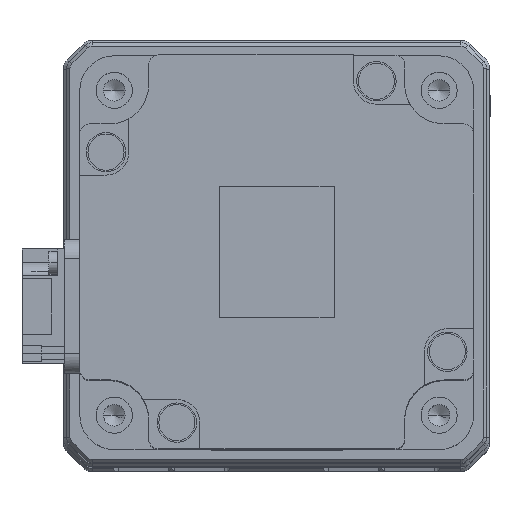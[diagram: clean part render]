
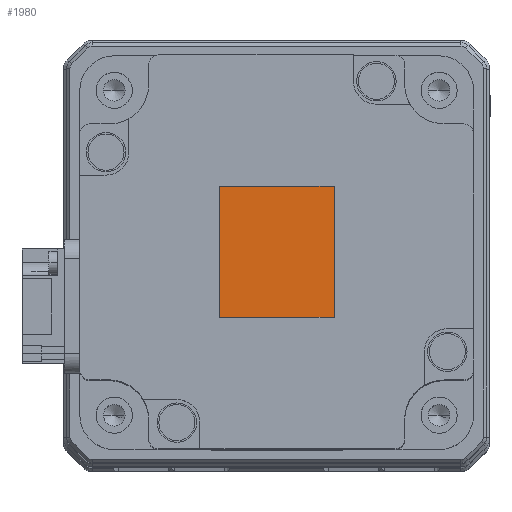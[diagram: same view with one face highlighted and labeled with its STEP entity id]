
A CAD part, top view. The second image highlights one B-rep face of the part: STEP entity #1980.
In plain terms, the highlighted planar face has unit normal (0, 0, 1) as drawn and (0, 0, -1) by its records, which use the part's own axes.
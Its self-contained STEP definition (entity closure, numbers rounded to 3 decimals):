
#828 = ORIENTED_EDGE ( 'NONE', *, *, #19325, .T. ) ;
#1980 = ADVANCED_FACE ( 'NONE', ( #7051 ), #3162, .T. ) ;
#2082 = CARTESIAN_POINT ( 'NONE',  ( 10., 8.75, -80.1 ) ) ;
#2175 = VECTOR ( 'NONE', #3918, 1000. ) ;
#3162 = PLANE ( 'NONE',  #11835 ) ;
#3918 = DIRECTION ( 'NONE',  ( 1., 0., 0. ) ) ;
#4731 = CARTESIAN_POINT ( 'NONE',  ( 10., 8.75, -80.1 ) ) ;
#5404 = VERTEX_POINT ( 'NONE', #2082 ) ;
#6102 = CARTESIAN_POINT ( 'NONE',  ( -10., 8.75, -80.1 ) ) ;
#7051 = FACE_OUTER_BOUND ( 'NONE', #31761, .T. ) ;
#8414 = DIRECTION ( 'NONE',  ( -1., 0., 0. ) ) ;
#9156 = CARTESIAN_POINT ( 'NONE',  ( 10., 8.75, -80.1 ) ) ;
#11317 = EDGE_CURVE ( 'NONE', #28480, #13376, #26264, .T. ) ;
#11622 = CARTESIAN_POINT ( 'NONE',  ( -10., -8.75, -80.1 ) ) ;
#11662 = EDGE_CURVE ( 'NONE', #13376, #30785, #32301, .T. ) ;
#11835 = AXIS2_PLACEMENT_3D ( 'NONE', #21308, #23912, #8414 ) ;
#11972 = CARTESIAN_POINT ( 'NONE',  ( 10., -8.75, -80.1 ) ) ;
#13376 = VERTEX_POINT ( 'NONE', #11622 ) ;
#15019 = DIRECTION ( 'NONE',  ( 0., -1., 0. ) ) ;
#18503 = VECTOR ( 'NONE', #26237, 1000. ) ;
#18631 = VECTOR ( 'NONE', #15019, 1000. ) ;
#19325 = EDGE_CURVE ( 'NONE', #5404, #28480, #32428, .T. ) ;
#21308 = CARTESIAN_POINT ( 'NONE',  ( 10., -8.75, -80.1 ) ) ;
#22053 = LINE ( 'NONE', #9156, #2175 ) ;
#22992 = VECTOR ( 'NONE', #24996, 1000. ) ;
#23912 = DIRECTION ( 'NONE',  ( 0., 0., -1. ) ) ;
#24996 = DIRECTION ( 'NONE',  ( -1., 0., 0. ) ) ;
#25080 = ORIENTED_EDGE ( 'NONE', *, *, #31459, .T. ) ;
#26237 = DIRECTION ( 'NONE',  ( 0., 1., 0. ) ) ;
#26264 = LINE ( 'NONE', #11972, #22992 ) ;
#26540 = ORIENTED_EDGE ( 'NONE', *, *, #11317, .T. ) ;
#27478 = ORIENTED_EDGE ( 'NONE', *, *, #11662, .T. ) ;
#28480 = VERTEX_POINT ( 'NONE', #29385 ) ;
#29385 = CARTESIAN_POINT ( 'NONE',  ( 10., -8.75, -80.1 ) ) ;
#30785 = VERTEX_POINT ( 'NONE', #6102 ) ;
#31446 = CARTESIAN_POINT ( 'NONE',  ( -10., 8.75, -80.1 ) ) ;
#31459 = EDGE_CURVE ( 'NONE', #30785, #5404, #22053, .T. ) ;
#31761 = EDGE_LOOP ( 'NONE', ( #27478, #25080, #828, #26540 ) ) ;
#32301 = LINE ( 'NONE', #31446, #18503 ) ;
#32428 = LINE ( 'NONE', #4731, #18631 ) ;
